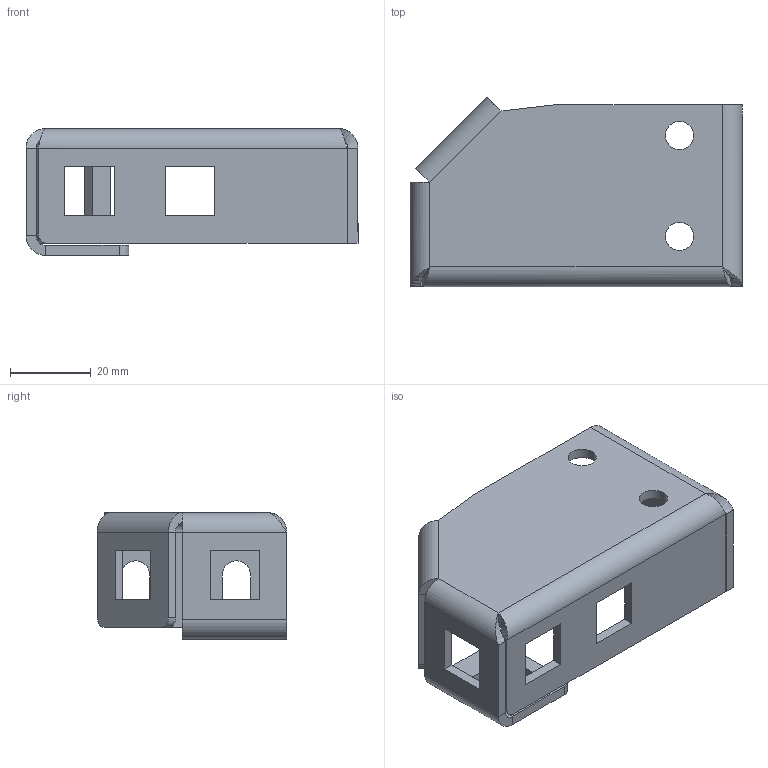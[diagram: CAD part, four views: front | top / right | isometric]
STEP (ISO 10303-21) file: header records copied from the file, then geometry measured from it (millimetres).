
FILE_DESCRIPTION (( 'STEP AP203' ), '1' );
FILE_NAME ('B 8 MG Äåðæàòåëü òðàâåðñû.STEP', '2015-05-14T07:41:01', ( 'Àëåêñàíäð' ), ( 'Ïðîâåíòî' ), 'SwSTEP 2.0', 'SolidWorks 2012', '' );
FILE_SCHEMA (( 'CONFIG_CONTROL_DESIGN' ));
Length unit declared in the file: millimetre
Products named in the file (1): B 8 MG Äåðæàòåëü òðàâåðñû
Bounding box: 82.4 x 47.04 x 31.5 mm (x, y, z)
Volume: 18491.4 mm3; surface area: 16957.1 mm2
Topology: 1 solids, 1 shells, 87 faces, 217 edges, 132 vertices
Faces by surface type: plane 57, cylinder 26, bspline 4
Entity records: 2824 total; most frequent: CARTESIAN_POINT 657, ORIENTED_EDGE 434, DIRECTION 415, EDGE_CURVE 217, LINE 159, VECTOR 159, VERTEX_POINT 132, AXIS2_PLACEMENT_3D 128
